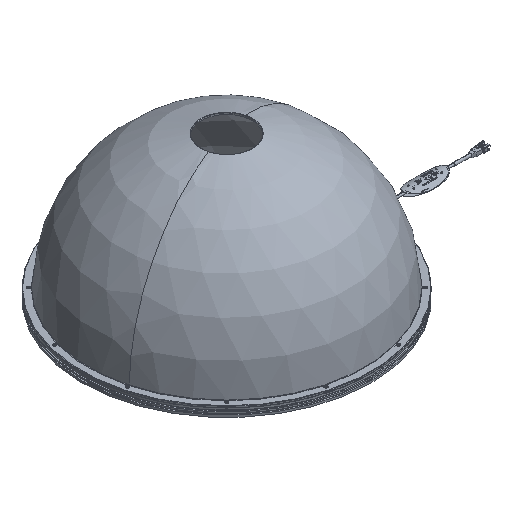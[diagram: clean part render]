
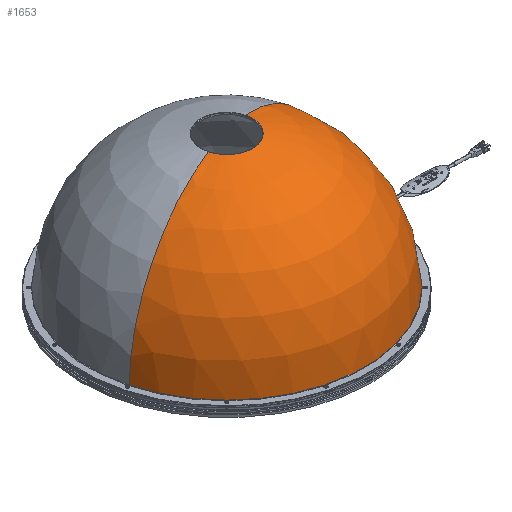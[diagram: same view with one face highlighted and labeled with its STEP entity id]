
A CAD part, isometric view. The second image highlights one B-rep face of the part: STEP entity #1653.
In plain terms, the highlighted spherical face has radius 202.5 mm.
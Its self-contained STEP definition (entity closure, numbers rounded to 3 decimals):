
#1653=ADVANCED_FACE('',(#3409),#3410,.T.);
#3409=FACE_OUTER_BOUND('',#5622,.T.);
#3410=SPHERICAL_SURFACE('',#5623,202.5);
#5622=EDGE_LOOP('',(#9857,#9858,#9859,#9860));
#5623=AXIS2_PLACEMENT_3D('',#9861,#9862,#9863);
#9857=ORIENTED_EDGE('',*,*,#14049,.T.);
#9858=ORIENTED_EDGE('',*,*,#14057,.T.);
#9859=ORIENTED_EDGE('',*,*,#14051,.T.);
#9860=ORIENTED_EDGE('',*,*,#14061,.F.);
#9861=CARTESIAN_POINT('',(0.,0.,0.));
#9862=DIRECTION('',(0.0,0.0,1.0));
#9863=DIRECTION('',(1.0,0.,0.0));
#14049=EDGE_CURVE('',#17281,#17282,#17283,.T.);
#14051=EDGE_CURVE('',#17286,#17284,#17287,.T.);
#14057=EDGE_CURVE('',#17282,#17286,#17295,.T.);
#14061=EDGE_CURVE('',#17281,#17284,#17299,.T.);
#17281=VERTEX_POINT('',#23878);
#17282=VERTEX_POINT('',#23879);
#17283=CIRCLE('',#23880,202.5);
#17284=VERTEX_POINT('',#23881);
#17286=VERTEX_POINT('',#23883);
#17287=CIRCLE('',#23884,202.5);
#17295=CIRCLE('',#23892,202.478);
#17299=CIRCLE('',#23896,37.991);
#23878=CARTESIAN_POINT('',(-37.991,0.,198.904));
#23879=CARTESIAN_POINT('',(-202.478,0.,2.993));
#23880=AXIS2_PLACEMENT_3D('',#26857,#26858,#26859);
#23881=CARTESIAN_POINT('',(37.991,0.0,198.904));
#23883=CARTESIAN_POINT('',(202.478,0.0,2.993));
#23884=AXIS2_PLACEMENT_3D('',#26863,#26864,#26865);
#23892=AXIS2_PLACEMENT_3D('',#26878,#26879,#26880);
#23896=AXIS2_PLACEMENT_3D('',#26884,#26885,#26886);
#26857=CARTESIAN_POINT('',(0.,0.,0.));
#26858=DIRECTION('',(0.,-1.0,0.0));
#26859=DIRECTION('',(0.0,0.0,1.0));
#26863=CARTESIAN_POINT('',(0.,0.0,0.));
#26864=DIRECTION('',(0.0,-1.0,0.0));
#26865=DIRECTION('',(1.,0.0,0.015));
#26878=CARTESIAN_POINT('',(0.,0.,2.993));
#26879=DIRECTION('',(0.,0.,1.0));
#26880=DIRECTION('',(1.0,0.,0.));
#26884=CARTESIAN_POINT('',(0.,0.,198.904));
#26885=DIRECTION('',(0.,0.,1.0));
#26886=DIRECTION('',(-1.0,0.,0.));
